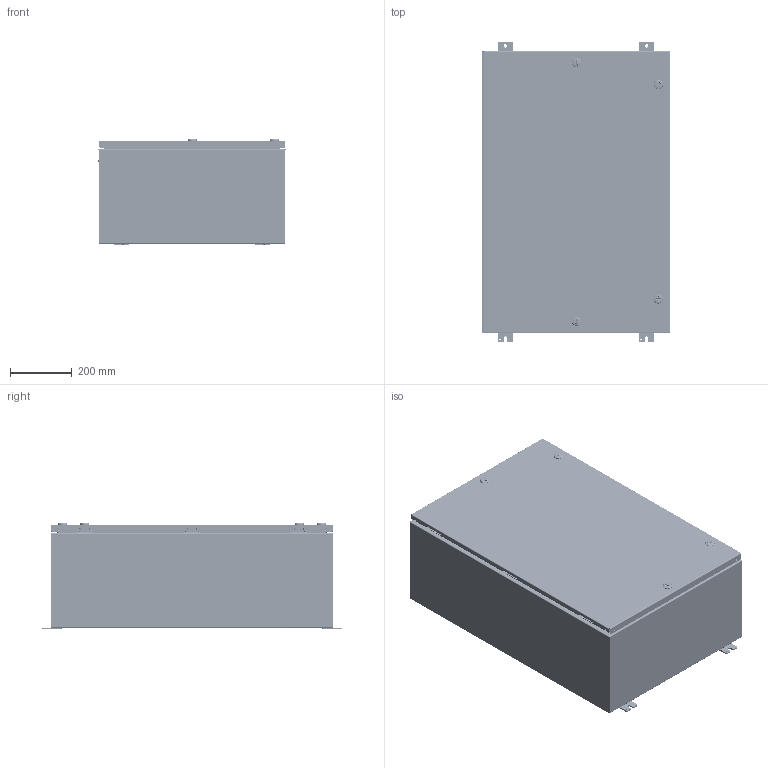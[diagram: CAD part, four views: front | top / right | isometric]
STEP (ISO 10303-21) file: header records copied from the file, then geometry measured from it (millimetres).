
FILE_DESCRIPTION((''),'2;1');
FILE_NAME('C:\Vault_Workspace\Inventor_Dwg\BoxCad\Result\5412ESPR362412\e-mail\3D\5412ESPR362412.stp','2014-04-24T21:07:32',(''),(''),'Autodesk Inventor 2012','Autodesk Inventor 2012','');
FILE_SCHEMA(('AUTOMOTIVE_DESIGN { 1 0 10303 214 1 1 1 1 }'));
Length unit declared in the file: inch
Products named in the file (40): 5412ESPR362412; 5412ESPR362412B; 5412ESPR362412B-P; STK-Q-16080; STK-Q-16005; STK-Q-71000; STK-P-02400S; STK-Q-07610; 881SP3624; 881SP3624-P; STK-P-02401S; STK-Q-07310; 5412ESPR362412C; 5412ESPR362412C-P; 5412ESPR362412G; STK-Q-33105; STK-A-33005PR-1; STK-Q-33005PR; STK-Q-90260; STK-Q-40010-1; STK-Q-40010-A; STK-Q-40010-B; STK-A-33005PR-2; STK-A-33005PR-3; STK-A-880SCQ4-SL-1; STK-Q-78110; STK-Q-78120; STK-Q-78145; STK-Q-03200; STK-Q-78125; STK-Q-78140; STK-Q-90390; STK-Q-78160; STK-A-880SCQ4-SL-2; STK-A-880SCQ4-SL-5; STK-A-880SCQ4-SL-6; STK-S-00100; STK-Q-03000; STK-A-01800; STK-A-880PP
Assembly tree (99 placements, depth 5):
  5412ESPR362412
    5412ESPR362412B
      5412ESPR362412B-P
      STK-Q-16080
      STK-Q-16005  x6
      STK-Q-71000  x4
      STK-P-02400S
    STK-Q-07610  x6
    881SP3624
      881SP3624-P
      STK-P-02401S
    STK-Q-07310  x6
    5412ESPR362412C
      5412ESPR362412C-P
      5412ESPR362412G
      STK-Q-33105  x3
      STK-A-33005PR-1
        STK-Q-33005PR
        STK-Q-90260  x2
        STK-Q-40010-1
          STK-Q-40010-A
          STK-Q-40010-B
      STK-A-33005PR-2
        STK-Q-33005PR
        STK-Q-90260  x2
        STK-Q-40010-1
          STK-Q-40010-A
          STK-Q-40010-B
      STK-A-33005PR-3
        STK-Q-33005PR
        STK-Q-90260  x2
        STK-Q-40010-1
          STK-Q-40010-A
          STK-Q-40010-B
      STK-A-880SCQ4-SL-1
        STK-Q-78110
        STK-Q-78120
        STK-Q-78145
        STK-Q-03200
        STK-Q-78125
        STK-Q-78140
        STK-Q-90390
        STK-Q-78160
      STK-A-880SCQ4-SL-2
        STK-Q-78110
        STK-Q-78120
        STK-Q-78145
        STK-Q-03200
        STK-Q-78125
        STK-Q-78140
        STK-Q-90390
        STK-Q-78160
      STK-A-880SCQ4-SL-5
        STK-Q-78110
        STK-Q-78120
        STK-Q-78145
        STK-Q-03200
        STK-Q-78125
        STK-Q-78140
        STK-Q-90390
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Bounding box: 609.6 x 971.56 x 342.87 mm (x, y, z)
Volume: 5662154.9 mm3; surface area: 5738297.2 mm2
Topology: 85 solids, 85 shells, 8975 faces, 24108 edges, 15284 vertices
Faces by surface type: plane 3178, bspline 2888, cylinder 2132, torus 416, cone 209, sphere 152
Full cylindrical faces by diameter (mm): 0.75 x8, 0.762 x12, 2.375 x6, 4.75 x6, 5 x6, 5.1 x40, 5.156 x4, 5.5 x3, 6.3 x6, 6.65 x6, 7 x6, 7.366 x9, 7.9 x6, 8 x12, 9.6 x4, 10 x4, 10.5 x3, 11.1 x4, 12.7 x2, 12.8 x4, 13 x4, 15.9 x4, 16 x4, 18.2 x6, 19.7 x4, 29 x4
Entity records: 99550 total; most frequent: CARTESIAN_POINT 45339, ORIENTED_EDGE 12186, DIRECTION 8987, EDGE_CURVE 6093, VERTEX_POINT 3909, AXIS2_PLACEMENT_3D 3134, VECTOR 2719, LINE 2719
